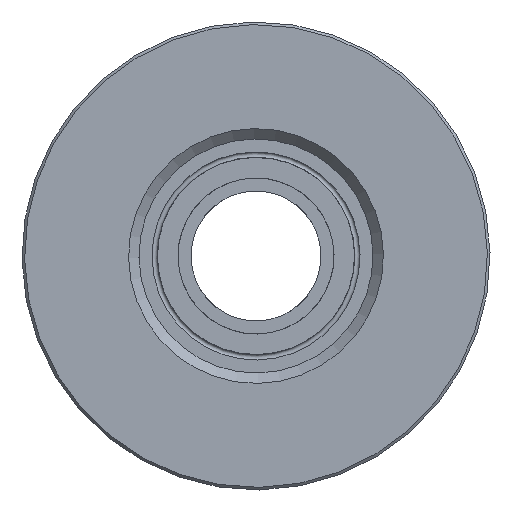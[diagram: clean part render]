
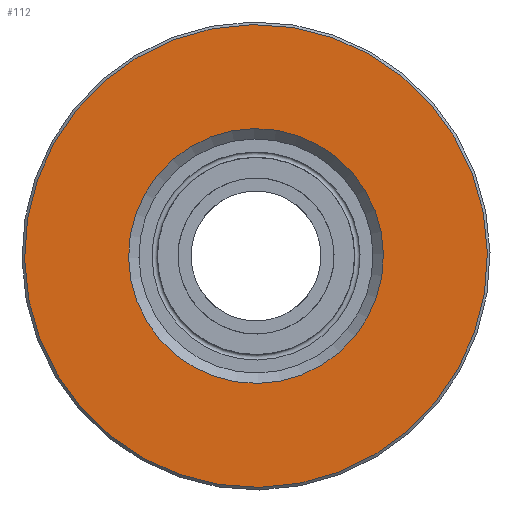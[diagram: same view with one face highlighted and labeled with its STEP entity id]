
A CAD part, front view. The second image highlights one B-rep face of the part: STEP entity #112.
In plain terms, the highlighted planar face has unit normal (0, -1, 0).
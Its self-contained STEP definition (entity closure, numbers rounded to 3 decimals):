
#112 = ADVANCED_FACE('',(#113,#149),#126,.F.);
#113 = FACE_BOUND('',#114,.T.);
#114 = EDGE_LOOP('',(#115));
#115 = ORIENTED_EDGE('',*,*,#116,.T.);
#116 = EDGE_CURVE('',#117,#117,#119,.T.);
#117 = VERTEX_POINT('',#118);
#118 = CARTESIAN_POINT('',(0.,-6.5,4.9));
#119 = SURFACE_CURVE('',#120,(#125,#137),.PCURVE_S1.);
#120 = CIRCLE('',#121,4.9);
#121 = AXIS2_PLACEMENT_3D('',#122,#123,#124);
#122 = CARTESIAN_POINT('',(0.,-6.5,0.));
#123 = DIRECTION('',(0.,1.,0.));
#124 = DIRECTION('',(0.,-0.,1.));
#125 = PCURVE('',#126,#131);
#126 = PLANE('',#127);
#127 = AXIS2_PLACEMENT_3D('',#128,#129,#130);
#128 = CARTESIAN_POINT('',(4.5,-6.5,0.));
#129 = DIRECTION('',(0.,1.,0.));
#130 = DIRECTION('',(0.,-0.,1.));
#131 = DEFINITIONAL_REPRESENTATION('',(#132),#136);
#132 = CIRCLE('',#133,4.9);
#133 = AXIS2_PLACEMENT_2D('',#134,#135);
#134 = CARTESIAN_POINT('',(0.,-4.5));
#135 = DIRECTION('',(1.,0.));
#136 = ( GEOMETRIC_REPRESENTATION_CONTEXT(2) 
PARAMETRIC_REPRESENTATION_CONTEXT() REPRESENTATION_CONTEXT('2D SPACE',''
  ) );
#137 = PCURVE('',#138,#143);
#138 = CONICAL_SURFACE('',#139,4.9,0.785);
#139 = AXIS2_PLACEMENT_3D('',#140,#141,#142);
#140 = CARTESIAN_POINT('',(0.,-6.5,0.));
#141 = DIRECTION('',(0.,-1.,0.));
#142 = DIRECTION('',(0.,0.,-1.));
#143 = DEFINITIONAL_REPRESENTATION('',(#144),#148);
#144 = LINE('',#145,#146);
#145 = CARTESIAN_POINT('',(9.425,0.));
#146 = VECTOR('',#147,1.);
#147 = DIRECTION('',(-1.,0.));
#148 = ( GEOMETRIC_REPRESENTATION_CONTEXT(2) 
PARAMETRIC_REPRESENTATION_CONTEXT() REPRESENTATION_CONTEXT('2D SPACE',''
  ) );
#149 = FACE_BOUND('',#150,.T.);
#150 = EDGE_LOOP('',(#151));
#151 = ORIENTED_EDGE('',*,*,#152,.T.);
#152 = EDGE_CURVE('',#153,#153,#155,.T.);
#153 = VERTEX_POINT('',#154);
#154 = CARTESIAN_POINT('',(0.,-6.5,8.9));
#155 = SURFACE_CURVE('',#156,(#161,#172),.PCURVE_S1.);
#156 = CIRCLE('',#157,8.9);
#157 = AXIS2_PLACEMENT_3D('',#158,#159,#160);
#158 = CARTESIAN_POINT('',(0.,-6.5,0.));
#159 = DIRECTION('',(0.,-1.,0.));
#160 = DIRECTION('',(0.,0.,1.));
#161 = PCURVE('',#126,#162);
#162 = DEFINITIONAL_REPRESENTATION('',(#163),#171);
#163 = ( BOUNDED_CURVE() B_SPLINE_CURVE(2,(#164,#165,#166,#167,#168,#169
,#170),.UNSPECIFIED.,.T.,.F.) B_SPLINE_CURVE_WITH_KNOTS((1,2,2,2,2,1),(
    -2.094,0.,2.094,4.189,6.283,
8.378),.UNSPECIFIED.) CURVE() GEOMETRIC_REPRESENTATION_ITEM() 
RATIONAL_B_SPLINE_CURVE((1.,0.5,1.,0.5,1.,0.5,1.)) REPRESENTATION_ITEM(
  '') );
#164 = CARTESIAN_POINT('',(8.9,-4.5));
#165 = CARTESIAN_POINT('',(8.9,-19.915));
#166 = CARTESIAN_POINT('',(-4.45,-12.208));
#167 = CARTESIAN_POINT('',(-17.8,-4.5));
#168 = CARTESIAN_POINT('',(-4.45,3.208));
#169 = CARTESIAN_POINT('',(8.9,10.915));
#170 = CARTESIAN_POINT('',(8.9,-4.5));
#171 = ( GEOMETRIC_REPRESENTATION_CONTEXT(2) 
PARAMETRIC_REPRESENTATION_CONTEXT() REPRESENTATION_CONTEXT('2D SPACE',''
  ) );
#172 = PCURVE('',#173,#178);
#173 = CONICAL_SURFACE('',#174,9.,0.785);
#174 = AXIS2_PLACEMENT_3D('',#175,#176,#177);
#175 = CARTESIAN_POINT('',(0.,-6.4,0.));
#176 = DIRECTION('',(0.,1.,0.));
#177 = DIRECTION('',(0.,-0.,1.));
#178 = DEFINITIONAL_REPRESENTATION('',(#179),#183);
#179 = LINE('',#180,#181);
#180 = CARTESIAN_POINT('',(6.283,-0.1));
#181 = VECTOR('',#182,1.);
#182 = DIRECTION('',(-1.,0.));
#183 = ( GEOMETRIC_REPRESENTATION_CONTEXT(2) 
PARAMETRIC_REPRESENTATION_CONTEXT() REPRESENTATION_CONTEXT('2D SPACE',''
  ) );
